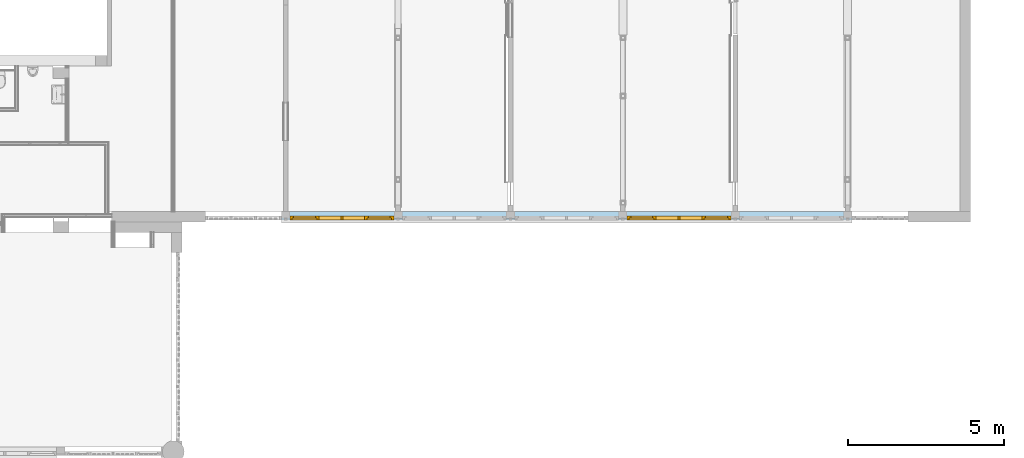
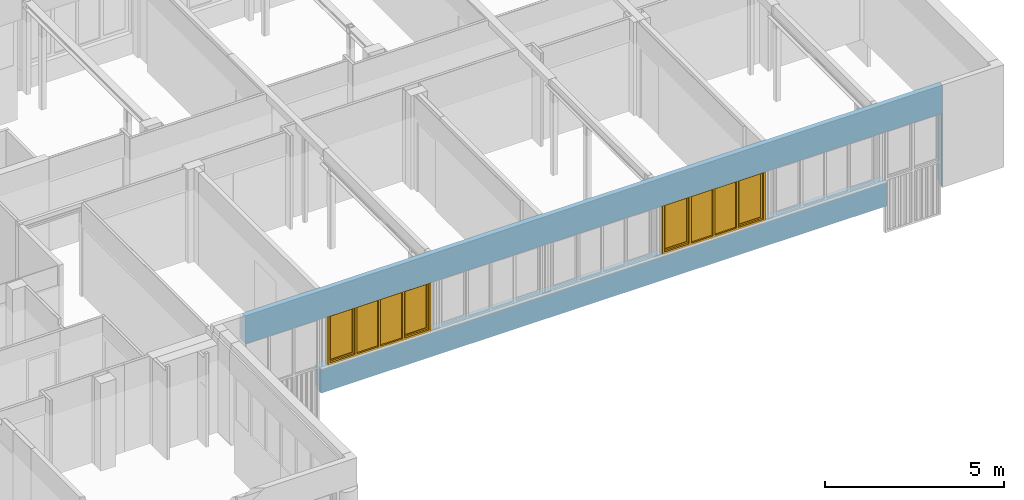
# One storey, part 34 of 99: 2 windows, 7 openings, plus 1 element that does not belong to this part.
"""IFC2X3 building model written with IfcOpenShell, lengths in millimetres."""

from ifc_helpers import new_model, entity, si_unit, converted_unit, derived_unit, money_unit, direction, frame, origin_with_axes, place, context, subcontext, project, spatial, open_shell, faceted_brep, surface_model, source, transform, mapped, material, type_object, type_shapes, element, fill, save


model = new_model("IFC2X3")

# Units and contexts
model_context = context("Model", 3, precision=0.01, world=origin_with_axes(), true_north=direction((0.0, 1.0)))
body_context = subcontext(model_context, "Body", "Model", "MODEL_VIEW")
ifc_project = project(units=[si_unit("LENGTHUNIT", "METRE", prefix="MILLI"), si_unit("AREAUNIT", "SQUARE_METRE"), si_unit("VOLUMEUNIT", "CUBIC_METRE"), converted_unit("PLANEANGLEUNIT", "DEGREE", entity("IfcPlaneAngleMeasure", 0.0174532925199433), si_unit("PLANEANGLEUNIT", "RADIAN"), dimensions=[0, 0, 0, 0, 0, 0, 0]), money_unit("EUR"), converted_unit("TIMEUNIT", "Year", entity("IfcTimeMeasure", 31557600.0), si_unit("TIMEUNIT", "SECOND"), dimensions=[0, 0, 1, 0, 0, 0, 0]), si_unit("MASSUNIT", "GRAM", prefix="KILO"), si_unit("THERMODYNAMICTEMPERATUREUNIT", "DEGREE_CELSIUS"), si_unit("LUMINOUSINTENSITYUNIT", "LUMEN"), si_unit("ENERGYUNIT", "JOULE", prefix="MEGA"), derived_unit("THERMALCONDUCTANCEUNIT", [(si_unit("POWERUNIT", "WATT"), 1), (si_unit("LENGTHUNIT", "METRE"), -1), (si_unit("THERMODYNAMICTEMPERATUREUNIT", "KELVIN"), -1)]), derived_unit("SPECIFICHEATCAPACITYUNIT", [(si_unit("ENERGYUNIT", "JOULE"), 1), (si_unit("MASSUNIT", "GRAM", prefix="KILO"), -1), (si_unit("THERMODYNAMICTEMPERATUREUNIT", "KELVIN"), -1)]), derived_unit("MASSDENSITYUNIT", [(si_unit("MASSUNIT", "GRAM", prefix="KILO"), 1), (si_unit("VOLUMEUNIT", "CUBIC_METRE"), -1)])], contexts=[model_context])

# Site, building, storey
site_placement = place(None, origin_with_axes())
site = spatial("IfcSite", under=ifc_project, at=site_placement, Name="Site", CompositionType="ELEMENT")
building_placement = place(site_placement, origin_with_axes())
building = spatial("IfcBuilding", under=site, at=building_placement, Name="Naam gebouw", CompositionType="ELEMENT")
storey_placement = place(building_placement, frame((0.0, 0.0, 7650.0), z_axis=(0.0, 0.0, 1.0), x_axis=(1.0, 0.0, 0.0)))
storey = spatial("IfcBuildingStorey", under=building, at=storey_placement, Name="2e verdieping N", CompositionType="ELEMENT", Elevation=7650.0)

# Wall, openings, windows
ifc_material = material(Name="ALG - CONSTRUCTIEF")
wall_type = type_object("IfcWallType", Name="ALG - CONSTRUCTIEF 330", PredefinedType="NOTDEFINED")
wall_placement = place(storey_placement, frame((55938.1567191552, 10990.91242510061, -99.99999999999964), z_axis=(0.0, 0.0, 1.0), x_axis=(-1.0, 0.0, 0.0)))
wall = element("IfcWall", 1, at=wall_placement, inside=storey, type_object=wall_type, material=ifc_material, Name="_Wand-x", context=body_context, shape_type="Brep", body=[
    faceted_brep([(22515.6567191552, 0.0, 2540.000000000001), (22515.6567191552, 329.9999999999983, 2540.000000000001), (22515.6567191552, 329.9999999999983, 3500.0), (22515.6567191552, 168.1794439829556, 3500.0), (22515.6567191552, 168.1794439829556, 3299.999999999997), (22515.6567191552, 0.0, 3299.999999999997), (0.6567191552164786, 0.0, 2540.000000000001), (0.6567191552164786, 330.0000000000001, 2540.000000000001), (20075.65671915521, 329.9999999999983, 2540.000000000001), (2075.656719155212, 260.0000000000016, 2540.000000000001), (1800.656719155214, 259.9999999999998, 2540.000000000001), (1800.656719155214, 216.0000000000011, 2540.000000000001), (2075.656719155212, 216.0000000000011, 2540.000000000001), (9275.656719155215, 215.9999999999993, 2540.000000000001), (9275.656719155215, 259.9999999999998, 2540.000000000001), (9000.65671915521, 259.999999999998, 2540.000000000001), (9000.65671915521, 215.9999999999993, 2540.000000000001), (5675.656719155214, 216.0000000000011, 2540.000000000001), (5675.656719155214, 259.9999999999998, 2540.000000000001), (5400.656719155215, 259.9999999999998, 2540.000000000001), (5400.656719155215, 216.0000000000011, 2540.000000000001), (12875.6567191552, 259.9999999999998, 2540.000000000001), (12600.6567191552, 259.999999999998, 2540.000000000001), (12600.6567191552, 215.9999999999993, 2540.000000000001), (12875.6567191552, 215.9999999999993, 2540.000000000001), (16475.6567191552, 215.9999999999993, 2540.000000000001), (16475.6567191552, 259.9999999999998, 2540.000000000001), (16200.65671915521, 259.999999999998, 2540.000000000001), (16200.65671915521, 215.9999999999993, 2540.000000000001), (20075.65671915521, 259.9999999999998, 2540.000000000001), (19800.65671915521, 259.999999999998, 2540.000000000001), (19800.65671915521, 215.9999999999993, 2540.000000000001), (20075.65671915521, 215.9999999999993, 2540.000000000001), (0.6567191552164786, 330.0000000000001, 0.0), (0.0, 330.0000000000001, 0.0), (0.0, 330.0000000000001, 3500.0), (0.0, 168.1794439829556, 3500.0), (0.0, 168.1794439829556, 3299.999999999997), (0.0, 0.0, 3299.999999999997), (0.0, 0.0, 99.99999999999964), (0.6567191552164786, 0.0, 99.99999999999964), (0.6567191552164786, 146.0000000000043, 99.99999999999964), (0.6567191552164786, 146.0000000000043, 0.0), (0.0, 146.0000000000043, 0.0), (0.0, 146.0000000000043, 99.99999999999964)], [[[0, 1, 2, 3, 4, 5]], [[1, 0, 6, 7, 8], [9, 10, 11, 12], [13, 14, 15, 16], [17, 18, 19, 20], [21, 22, 23, 24], [25, 26, 27, 28], [29, 30, 31, 32]], [[1, 8, 7, 33, 34, 35, 2]], [[3, 2, 35, 36]], [[4, 3, 36, 37]], [[5, 4, 37, 38]], [[6, 0, 5, 38, 39, 40]], [[33, 7, 6, 40, 41, 42]], [[10, 9, 12, 11]], [[14, 13, 16, 15]], [[18, 17, 20, 19]], [[22, 21, 24, 23]], [[26, 25, 28, 27]], [[30, 29, 32, 31]], [[34, 33, 42, 43]], [[35, 34, 43, 44, 39, 38, 37, 36]], [[40, 39, 44, 41]], [[42, 41, 44, 43]]]),
    faceted_brep([(20075.65671915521, 259.9999999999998, 820.0000000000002), (19800.65671915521, 259.999999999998, 820.0000000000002), (19800.65671915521, 215.9999999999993, 820.0000000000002), (20075.65671915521, 215.9999999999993, 820.0000000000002), (20075.65671915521, 329.9999999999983, 820.0000000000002), (1800.656719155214, 330.0000000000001, 820.0000000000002), (1800.656719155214, 259.9999999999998, 820.0000000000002), (2075.656719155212, 260.0000000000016, 820.0000000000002), (2075.656719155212, 216.0000000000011, 820.0000000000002), (1800.656719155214, 216.0000000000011, 820.0000000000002), (1800.656719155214, 0.0, 820.0000000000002), (20075.65671915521, 0.0, 820.0000000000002), (20075.65671915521, 145.999999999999, 820.0000000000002), (9000.65671915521, 259.999999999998, 820.0000000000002), (9275.656719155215, 259.9999999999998, 820.0000000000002), (9275.656719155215, 215.9999999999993, 820.0000000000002), (9000.65671915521, 215.9999999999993, 820.0000000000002), (5400.656719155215, 259.9999999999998, 820.0000000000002), (5675.656719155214, 259.9999999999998, 820.0000000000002), (5675.656719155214, 216.0000000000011, 820.0000000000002), (5400.656719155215, 216.0000000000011, 820.0000000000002), (12600.6567191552, 259.999999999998, 820.0000000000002), (12875.6567191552, 259.9999999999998, 820.0000000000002), (12875.6567191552, 215.9999999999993, 820.0000000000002), (12600.6567191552, 215.9999999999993, 820.0000000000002), (16475.6567191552, 259.9999999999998, 820.0000000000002), (16475.6567191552, 215.9999999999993, 820.0000000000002), (16200.65671915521, 215.9999999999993, 820.0000000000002), (16200.65671915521, 259.999999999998, 820.0000000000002), (20075.65671915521, 146.0000000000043, 0.0), (20075.65671915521, 329.9999999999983, 0.0), (20075.65671915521, 146.0000000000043, 99.99999999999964), (1800.656719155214, 330.0000000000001, 0.0), (1800.656719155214, 146.0000000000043, 0.0), (1800.656719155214, 146.0000000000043, 99.99999999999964), (1800.656719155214, 0.0, 99.99999999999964), (20075.65671915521, 0.0, 99.99999999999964)], [[[0, 1, 2, 3]], [[0, 4, 5, 6, 7, 8, 9, 10, 11, 12, 3, 2, 1], [13, 14, 15, 16], [17, 18, 19, 20], [21, 22, 23, 24], [25, 26, 27, 28]], [[29, 30, 4, 0, 3, 12, 31]], [[4, 30, 32, 5]], [[6, 5, 32, 33, 34, 35, 10, 9]], [[7, 6, 9, 8]], [[36, 11, 10, 35]], [[31, 12, 11, 36]], [[14, 13, 16, 15]], [[18, 17, 20, 19]], [[22, 21, 24, 23]], [[26, 25, 28, 27]], [[30, 29, 33, 32]], [[29, 31, 34, 33]], [[31, 36, 35, 34]]]),
])
opening_1_placement = place(wall_placement, frame((3738.156719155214, 0.0, 820.0000000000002), z_axis=(0.0, 0.0, 1.0), x_axis=(1.0, 0.0, 0.0)))
element("IfcOpeningElement", 2, at=opening_1_placement, cuts=wall, Name="_Merk-052", context=body_context, shape_type="Brep", body=[
    faceted_brep([(-1937.5, 260.0000000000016, 0.0), (-1937.5, 260.0000000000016, 1720.000000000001), (-1937.5, 331.0000000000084, 1720.000000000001), (-1937.5, 331.0000000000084, 0.0), (-1937.5, -0.9999999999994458, 0.0), (-1937.5, -0.9999999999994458, 1720.000000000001), (1937.5, 259.9999999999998, 1720.000000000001), (1937.5, 331.0000000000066, 1720.000000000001), (1937.5, -1.000000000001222, 1720.000000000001), (1937.5, 331.0000000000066, 0.0), (1937.5, 259.9999999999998, 0.0), (1937.5, -1.000000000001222, 0.0)], [[[0, 1, 2, 3]], [[1, 0, 4, 5]], [[6, 7, 2, 1, 5, 8]], [[7, 9, 3, 2]], [[0, 3, 9, 10, 11, 4]], [[5, 4, 11, 8]], [[6, 10, 9, 7]], [[10, 6, 8, 11]]]),
])
opening_2_placement = place(wall_placement, frame((7338.156719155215, 0.0, 820.0000000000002), z_axis=(0.0, 0.0, 1.0), x_axis=(1.0, 0.0, 0.0)))
opening_2 = element("IfcOpeningElement", 3, at=opening_2_placement, cuts=wall, Name="_Merk-052", context=body_context, shape_type="Brep", body=[
    faceted_brep([(-1937.5, 259.9999999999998, 0.0), (-1937.5, 259.9999999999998, 1720.000000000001), (-1937.5, 331.0000000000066, 1720.000000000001), (-1937.5, 331.0000000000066, 0.0), (-1937.5, -1.000000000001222, 0.0), (-1937.5, -1.000000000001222, 1720.000000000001), (1937.5, 259.999999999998, 1720.000000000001), (1937.5, 331.0000000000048, 1720.000000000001), (1937.5, -1.000000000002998, 1720.000000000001), (1937.5, 331.0000000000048, 0.0), (1937.5, 259.999999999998, 0.0), (1937.5, -1.000000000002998, 0.0)], [[[0, 1, 2, 3]], [[1, 0, 4, 5]], [[6, 7, 2, 1, 5, 8]], [[7, 9, 3, 2]], [[0, 3, 9, 10, 11, 4]], [[5, 4, 11, 8]], [[6, 10, 9, 7]], [[10, 6, 8, 11]]]),
])
opening_3_placement = place(wall_placement, frame((10938.1567191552, 0.0, 820.0000000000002), z_axis=(0.0, 0.0, 1.0), x_axis=(1.0, 0.0, 0.0)))
element("IfcOpeningElement", 4, at=opening_3_placement, cuts=wall, Name="_Merk-052", context=body_context, shape_type="Brep", body=[
    faceted_brep([(-1937.5, 259.9999999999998, 0.0), (-1937.5, 259.9999999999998, 1720.000000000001), (-1937.5, 331.0000000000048, 1720.000000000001), (-1937.5, 331.0000000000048, 0.0), (-1937.5, -1.000000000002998, 0.0), (-1937.5, -1.000000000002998, 1720.000000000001), (1937.5, 259.999999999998, 1720.000000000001), (1937.5, 331.0000000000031, 1720.000000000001), (1937.5, -1.000000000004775, 1720.000000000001), (1937.5, 331.0000000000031, 0.0), (1937.5, 259.999999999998, 0.0), (1937.5, -1.000000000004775, 0.0)], [[[0, 1, 2, 3]], [[1, 0, 4, 5]], [[6, 7, 2, 1, 5, 8]], [[7, 9, 3, 2]], [[0, 3, 9, 10, 11, 4]], [[5, 4, 11, 8]], [[6, 10, 9, 7]], [[10, 6, 8, 11]]]),
])
opening_4_placement = place(wall_placement, frame((14538.1567191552, 0.0, 820.0000000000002), z_axis=(0.0, 0.0, 1.0), x_axis=(1.0, 0.0, 0.0)))
element("IfcOpeningElement", 5, at=opening_4_placement, cuts=wall, Name="_Merk-052", context=body_context, shape_type="Brep", body=[
    faceted_brep([(-1937.5, 259.9999999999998, 0.0), (-1937.5, 259.9999999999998, 1720.000000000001), (-1937.5, 331.0000000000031, 1720.000000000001), (-1937.5, 331.0000000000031, 0.0), (-1937.5, -1.000000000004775, 0.0), (-1937.5, -1.000000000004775, 1720.000000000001), (1937.5, 259.999999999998, 1720.000000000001), (1937.5, 331.0000000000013, 1720.000000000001), (1937.5, -1.000000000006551, 1720.000000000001), (1937.5, 331.0000000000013, 0.0), (1937.5, 259.999999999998, 0.0), (1937.5, -1.000000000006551, 0.0)], [[[0, 1, 2, 3]], [[1, 0, 4, 5]], [[6, 7, 2, 1, 5, 8]], [[7, 9, 3, 2]], [[0, 3, 9, 10, 11, 4]], [[5, 4, 11, 8]], [[6, 10, 9, 7]], [[10, 6, 8, 11]]]),
])
opening_5_placement = place(wall_placement, frame((18138.15671915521, 0.0, 820.0000000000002), z_axis=(0.0, 0.0, 1.0), x_axis=(1.0, 0.0, 0.0)))
opening_5 = element("IfcOpeningElement", 6, at=opening_5_placement, cuts=wall, Name="_Merk-052", context=body_context, shape_type="Brep", body=[
    faceted_brep([(-1937.5, 259.9999999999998, 0.0), (-1937.5, 259.9999999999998, 1720.000000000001), (-1937.5, 331.0000000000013, 1720.000000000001), (-1937.5, 331.0000000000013, 0.0), (-1937.5, -1.000000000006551, 0.0), (-1937.5, -1.000000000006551, 1720.000000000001), (1937.5, 259.999999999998, 1720.000000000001), (1937.5, 330.9999999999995, 1720.000000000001), (1937.5, -1.000000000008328, 1720.000000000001), (1937.5, 330.9999999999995, 0.0), (1937.5, 259.999999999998, 0.0), (1937.5, -1.000000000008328, 0.0)], [[[0, 1, 2, 3]], [[1, 0, 4, 5]], [[6, 7, 2, 1, 5, 8]], [[7, 9, 3, 2]], [[0, 3, 9, 10, 11, 4]], [[5, 4, 11, 8]], [[6, 10, 9, 7]], [[10, 6, 8, 11]]]),
])
opening_6_placement = place(wall_placement, frame((21295.6567191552, 0.0, -959.9999999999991), z_axis=(0.0, 0.0, 1.0), x_axis=(1.0, 0.0, 0.0)))
element("IfcOpeningElement", 7, at=opening_6_placement, cuts=wall, Name="_Merk-055", context=body_context, shape_type="Brep", body=[
    faceted_brep([(-1219.999999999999, 259.9999999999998, -1060.0), (-1219.999999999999, 259.9999999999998, 3500.0), (-1219.999999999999, 331.0000000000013, 3500.0), (-1219.999999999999, 331.0000000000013, -1060.0), (-1219.999999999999, -1.000000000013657, -1060.0), (-1219.999999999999, -1.000000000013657, 3500.0), (1219.999999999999, 259.999999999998, 3500.0), (1219.999999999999, 330.9999999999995, 3500.0), (1219.999999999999, -1.000000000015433, 3500.0), (1219.999999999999, 330.9999999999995, -1060.0), (1219.999999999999, 259.999999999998, -1060.0), (1219.999999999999, -1.000000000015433, -1060.0)], [[[0, 1, 2, 3]], [[1, 0, 4, 5]], [[6, 7, 2, 1, 5, 8]], [[7, 9, 3, 2]], [[0, 3, 9, 10, 11, 4]], [[5, 4, 11, 8]], [[6, 10, 9, 7]], [[10, 6, 8, 11]]]),
])
opening_7_placement = place(wall_placement, frame((900.6567191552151, 0.0, -960.0000000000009), z_axis=(0.0, 0.0, 1.0), x_axis=(1.0, 0.0, 0.0)))
element("IfcOpeningElement", 8, at=opening_7_placement, cuts=wall, Name="_Merk-051", context=body_context, shape_type="Brep", body=[
    faceted_brep([(-899.9999999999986, 260.0000000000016, -1060.0), (-899.9999999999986, 260.0000000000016, 3500.000000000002), (-899.9999999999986, 331.0000000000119, 3500.000000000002), (-899.9999999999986, 331.0000000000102, -1060.0), (-899.9999999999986, -0.9999999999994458, -1060.0), (-899.9999999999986, -0.9999999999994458, 3500.000000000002), (899.9999999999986, 259.9999999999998, 3500.000000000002), (899.9999999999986, 331.0000000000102, 3500.000000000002), (899.9999999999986, -1.000000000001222, 3500.000000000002), (899.9999999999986, 331.0000000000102, -1060.0), (899.9999999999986, 259.9999999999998, -1060.0), (899.9999999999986, -1.000000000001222, -1060.0)], [[[0, 1, 2, 3]], [[1, 0, 4, 5]], [[6, 7, 2, 1, 5, 8]], [[7, 9, 3, 2]], [[0, 3, 9, 10, 11, 4]], [[5, 4, 11, 8]], [[6, 10, 9, 7]], [[10, 6, 8, 11]]]),
])
window_style = type_object("IfcWindowStyle", Name="Rnx horizontaal 26", ConstructionType="NOTDEFINED", OperationType="USERDEFINED", ParameterTakesPrecedence=False, Sizeable=False)
shared_shape = source(origin_with_axes(), body_context, "Body", "SurfaceModel", [
    faceted_brep([(1612.5, 0.0, 1653.0), (1612.5, -54.0000000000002, 1653.0), (1595.5, -54.00000000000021, 1653.0), (1595.5, -114.0000000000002, 1653.0), (1662.5, -114.0000000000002, 1653.0), (1662.5, 0.0, 1653.0), (1612.5, 0.0, 66.99999999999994), (1612.5, -54.00000000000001, 66.99999999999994), (1595.5, -54.00000000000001, 66.99999999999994), (1595.5, -114.0, 66.99999999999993), (1662.5, -114.0, 66.99999999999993), (1662.5, 0.0, 66.99999999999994)], [[[0, 1, 2, 3, 4, 5]], [[1, 0, 6, 7]], [[8, 2, 1, 7]], [[2, 8, 9, 3]], [[4, 3, 9, 10]], [[5, 4, 10, 11]], [[6, 0, 5, 11]], [[7, 6, 11, 10, 9, 8]]]),
    faceted_brep([(-1595.5, -54.00000000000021, 1653.0), (-1612.5, -54.0000000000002, 1653.0), (-1612.5, 0.0, 1653.0), (-1662.5, 0.0, 1653.0), (-1662.5, -114.0000000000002, 1653.0), (-1595.5, -114.0000000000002, 1653.0), (-1595.5, -54.00000000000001, 66.99999999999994), (-1612.5, -54.00000000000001, 66.99999999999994), (-1612.5, 0.0, 66.99999999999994), (-1662.5, 0.0, 66.99999999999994), (-1662.5, -114.0, 66.99999999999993), (-1595.5, -114.0, 66.99999999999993)], [[[0, 1, 2, 3, 4, 5]], [[1, 0, 6, 7]], [[8, 2, 1, 7]], [[2, 8, 9, 3]], [[9, 10, 4, 3]], [[10, 11, 5, 4]], [[6, 0, 5, 11]], [[7, 6, 11, 10, 9, 8]]]),
    faceted_brep([(1612.5, 0.0, 1653.0), (1612.5, 0.0, 1670.0), (781.0000000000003, 0.0, 1670.0), (781.0000000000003, 0.0, 1653.0), (731.0000000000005, 0.0, 1653.0), (33.50000000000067, 0.0, 1653.0), (-33.49999999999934, 0.0, 1653.0), (-730.9999999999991, 0.0, 1653.0), (-780.999999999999, 0.0, 1653.0), (-780.999999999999, 0.0, 1670.0), (-1612.5, 0.0, 1670.0), (-1612.5, 0.0, 1653.0), (-1662.5, 0.0, 1653.0), (-1662.5, 0.0, 1720.0), (1662.5, 0.0, 1720.0), (1662.5, 0.0, 1653.0), (1612.5, -54.0000000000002, 1653.0), (1612.5, -54.0000000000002, 1670.0), (781.0000000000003, -54.0000000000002, 1670.0), (781.0000000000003, -54.0000000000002, 1653.0), (798.0000000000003, -54.00000000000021, 1653.0), (798.0000000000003, -114.0000000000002, 1653.0), (731.0000000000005, -114.0000000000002, 1653.0), (33.50000000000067, -114.0000000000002, 1653.0), (-33.49999999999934, -114.0000000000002, 1653.0), (-730.9999999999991, -114.0000000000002, 1653.0), (-780.999999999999, -54.0000000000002, 1653.0), (-797.9999999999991, -114.0000000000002, 1653.0), (-797.9999999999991, -54.00000000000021, 1653.0), (-780.999999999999, -54.0000000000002, 1670.0), (-1612.5, -54.0000000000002, 1670.0), (-1612.5, -54.0000000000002, 1653.0), (-1595.5, -54.00000000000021, 1653.0), (-1595.5, -114.0000000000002, 1653.0), (-1662.5, -114.0000000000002, 1653.0), (-1662.5, -114.0000000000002, 1720.0), (1662.5, -114.0000000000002, 1720.0), (1662.5, -114.0000000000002, 1653.0), (1595.5, -114.0000000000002, 1653.0), (1595.5, -54.00000000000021, 1653.0)], [[[0, 1, 2, 3, 4, 5, 6, 7, 8, 9, 10, 11, 12, 13, 14, 15]], [[1, 0, 16, 17]], [[2, 1, 17, 18]], [[3, 2, 18, 19]], [[19, 20, 21, 22, 4, 3]], [[4, 22, 23, 5]], [[5, 23, 24, 6]], [[6, 24, 25, 7]], [[26, 8, 7, 25, 27, 28]], [[9, 8, 26, 29]], [[10, 9, 29, 30]], [[11, 10, 30, 31]], [[31, 32, 33, 34, 12, 11]], [[12, 34, 35, 13]], [[13, 35, 36, 14]], [[14, 36, 37, 15]], [[16, 0, 15, 37, 38, 39]], [[20, 19, 18, 17, 16, 39]], [[20, 39, 38, 21]], [[34, 33, 27, 25, 24, 23, 22, 21, 38, 37, 36, 35]], [[32, 28, 27, 33]], [[32, 31, 30, 29, 26, 28]]]),
    faceted_brep([(798.0000000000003, -54.00000000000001, 66.99999999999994), (781.0000000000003, -54.00000000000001, 66.99999999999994), (781.0000000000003, 0.0, 66.99999999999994), (731.0000000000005, 0.0, 66.99999999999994), (731.0000000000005, -114.0, 66.99999999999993), (798.0000000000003, -114.0, 66.99999999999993), (1595.5, -54.00000000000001, 66.99999999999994), (1612.5, -54.00000000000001, 66.99999999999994), (1612.5, -54.00000000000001, 50.00000000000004), (781.0000000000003, -54.00000000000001, 50.00000000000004), (781.0000000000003, 0.0, 50.00000000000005), (1612.5, 0.0, 50.00000000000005), (1612.5, 0.0, 66.99999999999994), (1662.5, 0.0, 66.99999999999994), (1662.5, 0.0, 0.0), (-1662.5, 0.0, 0.0), (-1662.5, 0.0, 66.99999999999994), (-1612.5, 0.0, 66.99999999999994), (-1612.5, 0.0, 50.00000000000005), (-780.999999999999, 0.0, 50.00000000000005), (-780.999999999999, 0.0, 66.99999999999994), (-730.9999999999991, 0.0, 66.99999999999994), (-33.49999999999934, 0.0, 66.99999999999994), (33.50000000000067, 0.0, 66.99999999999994), (33.50000000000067, -114.0, 66.99999999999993), (-730.9999999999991, -114.0, 66.99999999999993), (-797.9999999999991, -114.0, 66.99999999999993), (-1595.5, -114.0, 66.99999999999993), (-1662.5, -114.0, 66.99999999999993), (-1662.5, -114.0, 0.0), (1662.5, -114.0, 0.0), (1662.5, -114.0, 66.99999999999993), (1595.5, -114.0, 66.99999999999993), (-33.49999999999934, -114.0, 66.99999999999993), (-1595.5, -54.00000000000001, 66.99999999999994), (-1612.5, -54.00000000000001, 66.99999999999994), (-1612.5, -54.00000000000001, 50.00000000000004), (-780.999999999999, -54.00000000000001, 50.00000000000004), (-780.999999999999, -54.00000000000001, 66.99999999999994), (-797.9999999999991, -54.00000000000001, 66.99999999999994)], [[[0, 1, 2, 3, 4, 5]], [[1, 0, 6, 7, 8, 9]], [[10, 2, 1, 9]], [[11, 12, 13, 14, 15, 16, 17, 18, 19, 20, 21, 22, 23, 3, 2, 10]], [[23, 24, 4, 3]], [[25, 26, 27, 28, 29, 30, 31, 32, 5, 4, 24, 33]], [[6, 0, 5, 32]], [[7, 6, 32, 31, 13, 12]], [[7, 12, 11, 8]], [[11, 10, 9, 8]], [[13, 31, 30, 14]], [[14, 30, 29, 15]], [[15, 29, 28, 16]], [[34, 35, 17, 16, 28, 27]], [[18, 17, 35, 36]], [[19, 18, 36, 37]], [[38, 20, 19, 37]], [[38, 39, 26, 25, 21, 20]], [[21, 25, 33, 22]], [[22, 33, 24, 23]], [[39, 34, 27, 26]], [[35, 34, 39, 38, 37, 36]]]),
    faceted_brep([(798.0000000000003, -54.00000000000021, 1653.0), (781.0000000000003, -54.0000000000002, 1653.0), (781.0000000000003, 0.0, 1653.0), (731.0000000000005, 0.0, 1653.0), (731.0000000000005, -114.0000000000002, 1653.0), (798.0000000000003, -114.0000000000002, 1653.0), (798.0000000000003, -54.00000000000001, 66.99999999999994), (781.0000000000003, -54.00000000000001, 66.99999999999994), (781.0000000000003, 0.0, 66.99999999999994), (731.0000000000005, 0.0, 66.99999999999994), (731.0000000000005, -114.0, 66.99999999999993), (798.0000000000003, -114.0, 66.99999999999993)], [[[0, 1, 2, 3, 4, 5]], [[1, 0, 6, 7]], [[8, 2, 1, 7]], [[2, 8, 9, 3]], [[9, 10, 4, 3]], [[4, 10, 11, 5]], [[6, 0, 5, 11]], [[7, 6, 11, 10, 9, 8]]]),
    faceted_brep([(-33.49999999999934, 0.0, 66.99999999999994), (-33.49999999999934, -114.0, 66.99999999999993), (-33.49999999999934, -114.0000000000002, 1653.0), (-33.49999999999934, 0.0, 1653.0), (33.50000000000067, 0.0, 66.99999999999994), (33.50000000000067, -114.0, 66.99999999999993), (33.50000000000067, -114.0000000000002, 1653.0), (33.50000000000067, 0.0, 1653.0)], [[[0, 1, 2, 3]], [[4, 5, 1, 0]], [[2, 1, 5, 6]], [[3, 2, 6, 7]], [[4, 0, 3, 7]], [[7, 6, 5, 4]]]),
    faceted_brep([(-780.999999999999, 0.0, 1653.0), (-780.999999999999, -54.0000000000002, 1653.0), (-797.9999999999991, -54.00000000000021, 1653.0), (-797.9999999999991, -114.0000000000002, 1653.0), (-730.9999999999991, -114.0000000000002, 1653.0), (-730.9999999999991, 0.0, 1653.0), (-780.999999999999, 0.0, 66.99999999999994), (-780.999999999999, -54.00000000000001, 66.99999999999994), (-797.9999999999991, -54.00000000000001, 66.99999999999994), (-797.9999999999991, -114.0, 66.99999999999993), (-730.9999999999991, -114.0, 66.99999999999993), (-730.9999999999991, 0.0, 66.99999999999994)], [[[0, 1, 2, 3, 4, 5]], [[1, 0, 6, 7]], [[8, 2, 1, 7]], [[2, 8, 9, 3]], [[3, 9, 10, 4]], [[5, 4, 10, 11]], [[6, 0, 5, 11]], [[7, 6, 11, 10, 9, 8]]]),
    faceted_brep([(1545.5, -54.00000000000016, 1603.0), (1612.5, -54.00000000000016, 1603.0), (1612.5, 0.0, 1603.0), (1545.5, 0.0, 1603.0), (1545.5, -53.99999999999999, 117.0), (1612.5, -53.99999999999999, 117.0), (1612.5, 0.0, 117.0), (1545.5, 0.0, 117.0)], [[[0, 1, 2, 3]], [[0, 4, 5, 1]], [[1, 5, 6, 2]], [[3, 2, 6, 7]], [[4, 0, 3, 7]], [[5, 4, 7, 6]]]),
    faceted_brep([(848.0000000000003, -54.00000000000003, 117.0), (781.0000000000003, -54.00000000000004, 117.0), (781.0000000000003, 0.0, 117.0), (848.0000000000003, 0.0, 117.0), (848.0000000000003, -54.00000000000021, 1603.0), (781.0000000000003, -54.00000000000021, 1603.0), (781.0000000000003, 0.0, 1603.0), (848.0000000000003, 0.0, 1603.0)], [[[0, 1, 2, 3]], [[0, 4, 5, 1]], [[1, 5, 6, 2]], [[3, 2, 6, 7]], [[4, 0, 3, 7]], [[5, 4, 7, 6]]]),
    faceted_brep([(781.0000000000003, -54.00000000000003, 50.00000000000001), (781.0000000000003, -54.00000000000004, 117.0), (781.0000000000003, 0.0, 117.0), (781.0000000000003, 0.0, 50.00000000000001), (1612.5, -53.99999999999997, 50.00000000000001), (1612.5, -53.99999999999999, 117.0), (1545.5, -53.99999999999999, 117.0), (848.0000000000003, -54.00000000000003, 117.0), (848.0000000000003, 0.0, 117.0), (1545.5, 0.0, 117.0), (1612.5, 0.0, 117.0), (1612.5, 0.0, 50.00000000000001)], [[[0, 1, 2, 3]], [[0, 4, 5, 6, 7, 1]], [[1, 7, 8, 2]], [[3, 2, 8, 9, 10, 11]], [[4, 0, 3, 11]], [[5, 4, 11, 10]], [[6, 5, 10, 9]], [[7, 6, 9, 8]]]),
    faceted_brep([(1612.5, -54.00000000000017, 1670.0), (1612.5, -54.00000000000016, 1603.0), (1612.5, 0.0, 1603.0), (1612.5, 0.0, 1670.0), (781.0000000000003, -54.00000000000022, 1670.0), (781.0000000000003, -54.00000000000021, 1603.0), (848.0000000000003, -54.00000000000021, 1603.0), (1545.5, -54.00000000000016, 1603.0), (1545.5, 0.0, 1603.0), (848.0000000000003, 0.0, 1603.0), (781.0000000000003, 0.0, 1603.0), (781.0000000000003, 0.0, 1670.0)], [[[0, 1, 2, 3]], [[0, 4, 5, 6, 7, 1]], [[1, 7, 8, 2]], [[3, 2, 8, 9, 10, 11]], [[4, 0, 3, 11]], [[5, 4, 11, 10]], [[6, 5, 10, 9]], [[7, 6, 9, 8]]]),
    surface_model("IfcShellBasedSurfaceModel", [(1545.5, -37.00000000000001, 117.0), (1545.5, -37.00000000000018, 1603.0), (848.0000000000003, -37.00000000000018, 1603.0), (848.0000000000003, -37.00000000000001, 117.0)], [open_shell([[[0, 1, 2, 3]]])]),
    surface_model("IfcShellBasedSurfaceModel", [(1545.5, -17.0, 117.0), (848.0000000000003, -17.0, 117.0), (848.0000000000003, -17.00000000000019, 1603.0), (1545.5, -17.00000000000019, 1603.0)], [open_shell([[[0, 1, 2, 3]]])]),
    surface_model("IfcShellBasedSurfaceModel", [(731.0000000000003, -64.0, 66.99999999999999), (731.0000000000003, -64.0000000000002, 1653.0), (33.50000000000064, -64.0000000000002, 1653.0), (33.50000000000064, -64.0, 66.99999999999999)], [open_shell([[[0, 1, 2, 3]]])]),
    surface_model("IfcShellBasedSurfaceModel", [(731.0000000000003, -44.0, 66.99999999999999), (33.50000000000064, -44.0, 66.99999999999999), (33.50000000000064, -44.00000000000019, 1653.0), (731.0000000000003, -44.00000000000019, 1653.0)], [open_shell([[[0, 1, 2, 3]]])]),
    surface_model("IfcShellBasedSurfaceModel", [(-33.49999999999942, -64.0, 66.99999999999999), (-33.49999999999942, -64.0000000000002, 1653.0), (-730.9999999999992, -64.0000000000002, 1653.0), (-730.9999999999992, -64.0, 66.99999999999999)], [open_shell([[[0, 1, 2, 3]]])]),
    surface_model("IfcShellBasedSurfaceModel", [(-33.49999999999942, -44.0, 66.99999999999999), (-730.9999999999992, -44.0, 66.99999999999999), (-730.9999999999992, -44.00000000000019, 1653.0), (-33.49999999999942, -44.00000000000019, 1653.0)], [open_shell([[[0, 1, 2, 3]]])]),
    faceted_brep([(-847.9999999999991, -54.00000000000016, 1603.0), (-780.999999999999, -54.00000000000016, 1603.0), (-780.999999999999, 0.0, 1603.0), (-847.9999999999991, 0.0, 1603.0), (-847.9999999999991, -53.99999999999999, 117.0), (-780.999999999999, -53.99999999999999, 117.0), (-780.999999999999, 0.0, 117.0), (-847.9999999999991, 0.0, 117.0)], [[[0, 1, 2, 3]], [[0, 4, 5, 1]], [[1, 5, 6, 2]], [[3, 2, 6, 7]], [[4, 0, 3, 7]], [[5, 4, 7, 6]]]),
    faceted_brep([(-1545.5, -54.00000000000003, 117.0), (-1612.5, -54.00000000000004, 117.0), (-1612.5, 0.0, 117.0), (-1545.5, 0.0, 117.0), (-1545.5, -54.00000000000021, 1603.0), (-1612.5, -54.00000000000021, 1603.0), (-1612.5, 0.0, 1603.0), (-1545.5, 0.0, 1603.0)], [[[0, 1, 2, 3]], [[0, 4, 5, 1]], [[1, 5, 6, 2]], [[3, 2, 6, 7]], [[4, 0, 3, 7]], [[5, 4, 7, 6]]]),
    faceted_brep([(-1612.5, -54.00000000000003, 50.00000000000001), (-1612.5, -54.00000000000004, 117.0), (-1612.5, 0.0, 117.0), (-1612.5, 0.0, 50.00000000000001), (-780.999999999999, -53.99999999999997, 50.00000000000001), (-780.999999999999, -53.99999999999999, 117.0), (-847.9999999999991, -53.99999999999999, 117.0), (-1545.5, -54.00000000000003, 117.0), (-1545.5, 0.0, 117.0), (-847.9999999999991, 0.0, 117.0), (-780.999999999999, 0.0, 117.0), (-780.999999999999, 0.0, 50.00000000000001)], [[[0, 1, 2, 3]], [[0, 4, 5, 6, 7, 1]], [[1, 7, 8, 2]], [[3, 2, 8, 9, 10, 11]], [[4, 0, 3, 11]], [[5, 4, 11, 10]], [[6, 5, 10, 9]], [[7, 6, 9, 8]]]),
    faceted_brep([(-780.999999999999, -54.00000000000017, 1670.0), (-780.999999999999, -54.00000000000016, 1603.0), (-780.999999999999, 0.0, 1603.0), (-780.999999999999, 0.0, 1670.0), (-1612.5, -54.00000000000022, 1670.0), (-1612.5, -54.00000000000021, 1603.0), (-1545.5, -54.00000000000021, 1603.0), (-847.9999999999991, -54.00000000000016, 1603.0), (-847.9999999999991, 0.0, 1603.0), (-1545.5, 0.0, 1603.0), (-1612.5, 0.0, 1603.0), (-1612.5, 0.0, 1670.0)], [[[0, 1, 2, 3]], [[0, 4, 5, 6, 7, 1]], [[1, 7, 8, 2]], [[3, 2, 8, 9, 10, 11]], [[4, 0, 3, 11]], [[5, 4, 11, 10]], [[6, 5, 10, 9]], [[7, 6, 9, 8]]]),
    surface_model("IfcShellBasedSurfaceModel", [(-847.9999999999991, -37.00000000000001, 117.0), (-847.9999999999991, -37.00000000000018, 1603.0), (-1545.5, -37.00000000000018, 1603.0), (-1545.5, -37.00000000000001, 117.0)], [open_shell([[[0, 1, 2, 3]]])]),
    surface_model("IfcShellBasedSurfaceModel", [(-847.9999999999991, -17.0, 117.0), (-1545.5, -17.0, 117.0), (-1545.5, -17.00000000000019, 1603.0), (-847.9999999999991, -17.00000000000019, 1603.0)], [open_shell([[[0, 1, 2, 3]]])]),
])
type_shapes(window_style, [shared_shape])
window_1_placement = place(opening_2_placement, frame((1662.500000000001, 0.0, 0.0), z_axis=(0.0, 0.0, 1.0), x_axis=(-1.0, 0.0, 0.0)))
window_1 = element("IfcWindow", 9, at=window_1_placement, inside=storey, type_object=window_style, Name="_Merk-052", ObjectType="WINDOW", OverallHeight=1720.0, OverallWidth=3325.0, context=body_context, shape_type="MappedRepresentation", body=[
    mapped(shared_shape, transform((1662.500000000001, -145.999999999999, 0.0))),
])
fill(opening_2, window_1)
window_2_placement = place(opening_5_placement, frame((1662.500000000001, 0.0, 0.0), z_axis=(0.0, 0.0, 1.0), x_axis=(-1.0, 0.0, 0.0)))
window_2 = element("IfcWindow", 10, at=window_2_placement, inside=storey, type_object=window_style, Name="_Merk-052", ObjectType="WINDOW", OverallHeight=1720.0, OverallWidth=3325.0, context=body_context, shape_type="MappedRepresentation", body=[
    mapped(shared_shape, transform((1662.500000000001, -145.999999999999, 0.0))),
])
fill(opening_5, window_2)

save(model, "model.ifc")
